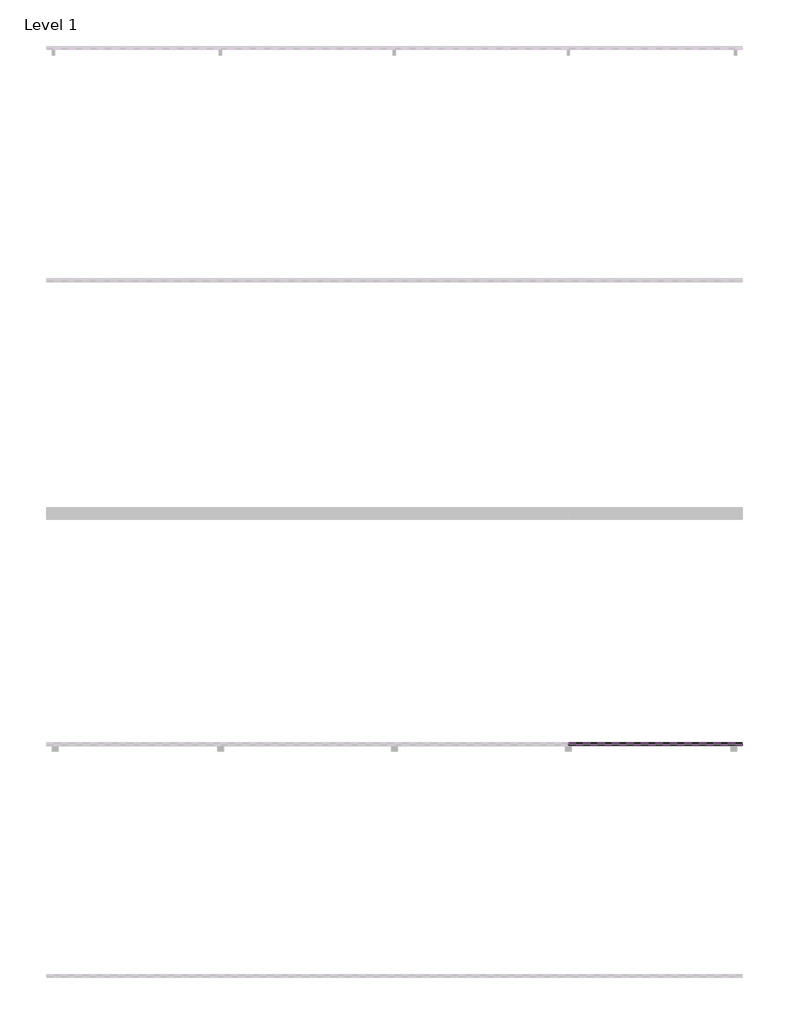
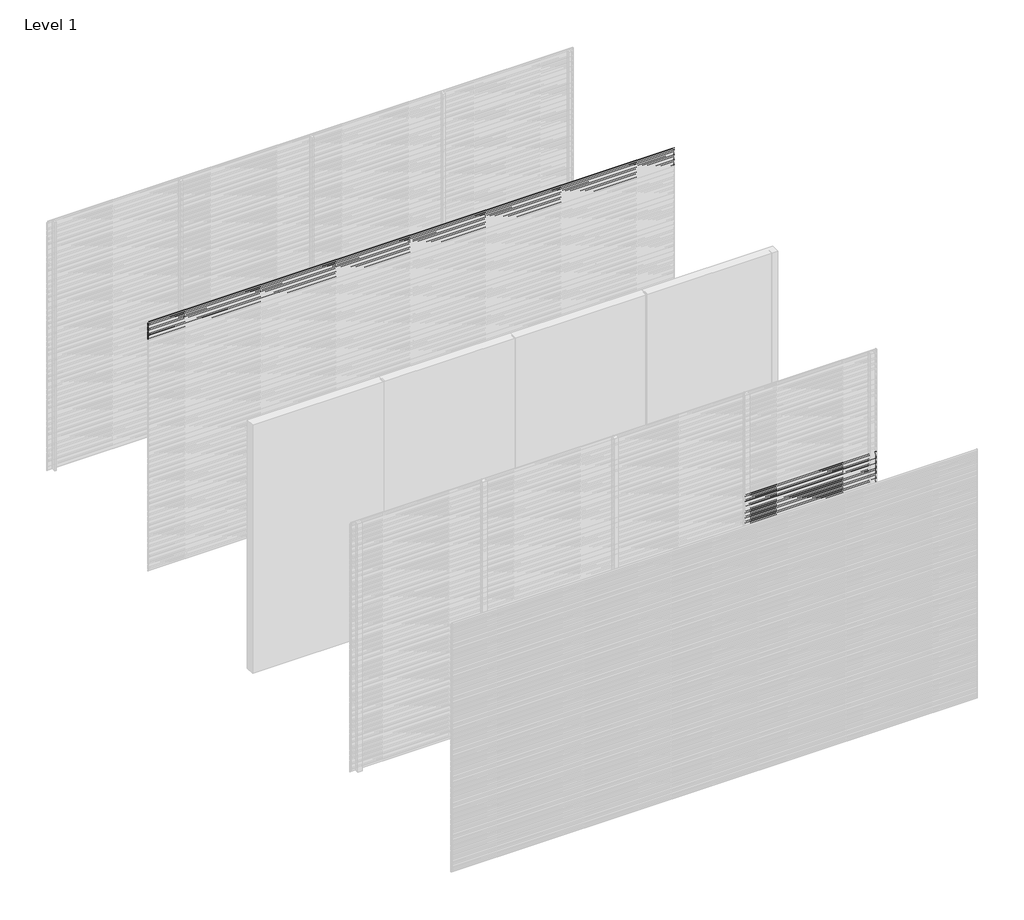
# One storey, part 16 of 31: 99 proxies.
"""IFC4 building model written with IfcOpenShell, lengths in millimetres."""

from ifc_helpers import new_model, si_unit, frame, origin, place, context, project, spatial, polyline, outline, extrude, element, save

model = new_model("IFC4")

# Units and contexts
model_context = context("Model", 3, world=origin())
ifc_project = project(units=[si_unit("LENGTHUNIT", "METRE", prefix="MILLI")], contexts=[model_context])

# Site, building, storey
site = spatial("IfcSite", under=ifc_project)
building = spatial("IfcBuilding", under=site)
storey = spatial("IfcBuildingStorey", under=building, Name="Level 1", Elevation=0.0)

# Proxies
placement = place(None, origin())
element("IfcBuildingElementProxy", 1, Name="Wall Sweeps", at=placement, inside=storey, context=model_context, shape_type="SweptSolid", body=[
    extrude(outline(polyline([(-7995.0, 3000.0), (-7995.0, 2988.942893), (-7976.0, 2973.0), (-7976.0, 2960.0), (-7997.0, 2977.6210923), (-7997.0, 3000.0), (-7995.0, 3000.0)])), frame((0.0, 0.0, 0.0), z_axis=(1.0, 0.0, 0.0), x_axis=(0.0, 1.0, 0.0)), (0.0, 0.0, 1.0), 6000.0),
])
element("IfcBuildingElementProxy", 2, Name="Wall Sweeps", at=placement, inside=storey, context=model_context, shape_type="SweptSolid", body=[
    extrude(outline(polyline([(-7995.0, 2980.0), (-7995.0, 2968.942893), (-7976.0, 2953.0), (-7976.0, 2940.0), (-7997.0, 2957.6210923), (-7997.0, 2980.0), (-7995.0, 2980.0)])), frame((0.0, 0.0, 0.0), z_axis=(1.0, 0.0, 0.0), x_axis=(0.0, 1.0, 0.0)), (0.0, 0.0, 1.0), 6000.0),
])
element("IfcBuildingElementProxy", 3, Name="Wall Sweeps", at=placement, inside=storey, context=model_context, shape_type="SweptSolid", body=[
    extrude(outline(polyline([(-7995.0, 2960.0), (-7995.0, 2948.942893), (-7976.0, 2933.0), (-7976.0, 2920.0), (-7997.0, 2937.6210923), (-7997.0, 2960.0), (-7995.0, 2960.0)])), frame((0.0, 0.0, 0.0), z_axis=(1.0, 0.0, 0.0), x_axis=(0.0, 1.0, 0.0)), (0.0, 0.0, 1.0), 6000.0),
])
element("IfcBuildingElementProxy", 4, Name="Wall Sweeps", at=placement, inside=storey, context=model_context, shape_type="SweptSolid", body=[
    extrude(outline(polyline([(-7995.0, 2940.0), (-7995.0, 2928.942893), (-7976.0, 2913.0), (-7976.0, 2900.0), (-7997.0, 2917.6210923), (-7997.0, 2940.0), (-7995.0, 2940.0)])), frame((0.0, 0.0, 0.0), z_axis=(1.0, 0.0, 0.0), x_axis=(0.0, 1.0, 0.0)), (0.0, 0.0, 1.0), 6000.0),
])
element("IfcBuildingElementProxy", 5, Name="Wall Sweeps", at=placement, inside=storey, context=model_context, shape_type="SweptSolid", body=[
    extrude(outline(polyline([(-7995.0, 2920.0), (-7995.0, 2908.942893), (-7976.0, 2893.0), (-7976.0, 2880.0), (-7997.0, 2897.6210923), (-7997.0, 2920.0), (-7995.0, 2920.0)])), frame((0.0, 0.0, 0.0), z_axis=(1.0, 0.0, 0.0), x_axis=(0.0, 1.0, 0.0)), (0.0, 0.0, 1.0), 6000.0),
])
element("IfcBuildingElementProxy", 6, Name="Wall Sweeps", at=placement, inside=storey, context=model_context, shape_type="SweptSolid", body=[
    extrude(outline(polyline([(-7995.0, 2900.0), (-7995.0, 2888.942893), (-7976.0, 2873.0), (-7976.0, 2860.0), (-7997.0, 2877.6210923), (-7997.0, 2900.0), (-7995.0, 2900.0)])), frame((0.0, 0.0, 0.0), z_axis=(1.0, 0.0, 0.0), x_axis=(0.0, 1.0, 0.0)), (0.0, 0.0, 1.0), 6000.0),
])
element("IfcBuildingElementProxy", 7, Name="Wall Sweeps", at=placement, inside=storey, context=model_context, shape_type="SweptSolid", body=[
    extrude(outline(polyline([(-7995.0, 2880.0), (-7995.0, 2868.942893), (-7976.0, 2853.0), (-7976.0, 2840.0), (-7997.0, 2857.6210923), (-7997.0, 2880.0), (-7995.0, 2880.0)])), frame((0.0, 0.0, 0.0), z_axis=(1.0, 0.0, 0.0), x_axis=(0.0, 1.0, 0.0)), (0.0, 0.0, 1.0), 6000.0),
])
element("IfcBuildingElementProxy", 8, Name="Wall Sweeps", at=placement, inside=storey, context=model_context, shape_type="SweptSolid", body=[
    extrude(outline(polyline([(-7995.0, 2860.0), (-7995.0, 2848.942893), (-7976.0, 2833.0), (-7976.0, 2820.0), (-7997.0, 2837.6210923), (-7997.0, 2860.0), (-7995.0, 2860.0)])), frame((0.0, 0.0, 0.0), z_axis=(1.0, 0.0, 0.0), x_axis=(0.0, 1.0, 0.0)), (0.0, 0.0, 1.0), 6000.0),
])
element("IfcBuildingElementProxy", 9, Name="Wall Sweeps", at=placement, inside=storey, context=model_context, shape_type="SweptSolid", body=[
    extrude(outline(polyline([(-7995.0, 2840.0), (-7995.0, 2828.942893), (-7976.0, 2813.0), (-7976.0, 2800.0), (-7997.0, 2817.6210923), (-7997.0, 2840.0), (-7995.0, 2840.0)])), frame((0.0, 0.0, 0.0), z_axis=(1.0, 0.0, 0.0), x_axis=(0.0, 1.0, 0.0)), (0.0, 0.0, 1.0), 6000.0),
])
element("IfcBuildingElementProxy", 10, Name="Wall Sweeps", at=placement, inside=storey, context=model_context, shape_type="SweptSolid", body=[
    extrude(outline(polyline([(-7995.0, 2820.0), (-7995.0, 2808.942893), (-7976.0, 2793.0), (-7976.0, 2780.0), (-7997.0, 2797.6210923), (-7997.0, 2820.0), (-7995.0, 2820.0)])), frame((0.0, 0.0, 0.0), z_axis=(1.0, 0.0, 0.0), x_axis=(0.0, 1.0, 0.0)), (0.0, 0.0, 1.0), 6000.0),
])
element("IfcBuildingElementProxy", 11, Name="Wall Sweeps", at=placement, inside=storey, context=model_context, shape_type="SweptSolid", body=[
    extrude(outline(polyline([(-11995.0, 1780.0), (-11995.0, 1768.942893), (-11976.0, 1753.0), (-11976.0, 1740.0), (-11997.0, 1757.6210923), (-11997.0, 1780.0), (-11995.0, 1780.0)])), frame((4500.0, 0.0, 0.0), z_axis=(1.0, 0.0, 0.0), x_axis=(0.0, 1.0, 0.0)), (0.0, 0.0, 1.0), 1500.0),
])
element("IfcBuildingElementProxy", 12, Name="Wall Sweeps", at=placement, inside=storey, context=model_context, shape_type="SweptSolid", body=[
    extrude(outline(polyline([(-11995.0, 1760.0), (-11995.0, 1748.942893), (-11976.0, 1733.0), (-11976.0, 1720.0), (-11997.0, 1737.6210923), (-11997.0, 1760.0), (-11995.0, 1760.0)])), frame((4500.0, 0.0, 0.0), z_axis=(1.0, 0.0, 0.0), x_axis=(0.0, 1.0, 0.0)), (0.0, 0.0, 1.0), 1500.0),
])
element("IfcBuildingElementProxy", 13, Name="Wall Sweeps", at=placement, inside=storey, context=model_context, shape_type="SweptSolid", body=[
    extrude(outline(polyline([(-11995.0, 1740.0), (-11995.0, 1728.942893), (-11976.0, 1713.0), (-11976.0, 1700.0), (-11997.0, 1717.6210923), (-11997.0, 1740.0), (-11995.0, 1740.0)])), frame((4500.0, 0.0, 0.0), z_axis=(1.0, 0.0, 0.0), x_axis=(0.0, 1.0, 0.0)), (0.0, 0.0, 1.0), 1500.0),
])
element("IfcBuildingElementProxy", 14, Name="Wall Sweeps", at=placement, inside=storey, context=model_context, shape_type="SweptSolid", body=[
    extrude(outline(polyline([(-11995.0, 1720.0), (-11995.0, 1708.942893), (-11976.0, 1693.0), (-11976.0, 1680.0), (-11997.0, 1697.6210923), (-11997.0, 1720.0), (-11995.0, 1720.0)])), frame((4500.0, 0.0, 0.0), z_axis=(1.0, 0.0, 0.0), x_axis=(0.0, 1.0, 0.0)), (0.0, 0.0, 1.0), 1500.0),
])
element("IfcBuildingElementProxy", 15, Name="Wall Sweeps", at=placement, inside=storey, context=model_context, shape_type="SweptSolid", body=[
    extrude(outline(polyline([(-11995.0, 1700.0), (-11995.0, 1688.942893), (-11976.0, 1673.0), (-11976.0, 1660.0), (-11997.0, 1677.6210923), (-11997.0, 1700.0), (-11995.0, 1700.0)])), frame((4500.0, 0.0, 0.0), z_axis=(1.0, 0.0, 0.0), x_axis=(0.0, 1.0, 0.0)), (0.0, 0.0, 1.0), 1500.0),
])
element("IfcBuildingElementProxy", 16, Name="Wall Sweeps", at=placement, inside=storey, context=model_context, shape_type="SweptSolid", body=[
    extrude(outline(polyline([(-11995.0, 1680.0), (-11995.0, 1668.942893), (-11976.0, 1653.0), (-11976.0, 1640.0), (-11997.0, 1657.6210923), (-11997.0, 1680.0), (-11995.0, 1680.0)])), frame((4500.0, 0.0, 0.0), z_axis=(1.0, 0.0, 0.0), x_axis=(0.0, 1.0, 0.0)), (0.0, 0.0, 1.0), 1500.0),
])
element("IfcBuildingElementProxy", 17, Name="Wall Sweeps", at=placement, inside=storey, context=model_context, shape_type="SweptSolid", body=[
    extrude(outline(polyline([(-11995.0, 1660.0), (-11995.0, 1648.942893), (-11976.0, 1633.0), (-11976.0, 1620.0), (-11997.0, 1637.6210923), (-11997.0, 1660.0), (-11995.0, 1660.0)])), frame((4500.0, 0.0, 0.0), z_axis=(1.0, 0.0, 0.0), x_axis=(0.0, 1.0, 0.0)), (0.0, 0.0, 1.0), 1500.0),
])
element("IfcBuildingElementProxy", 18, Name="Wall Sweeps", at=placement, inside=storey, context=model_context, shape_type="SweptSolid", body=[
    extrude(outline(polyline([(-11995.0, 1640.0), (-11995.0, 1628.942893), (-11976.0, 1613.0), (-11976.0, 1600.0), (-11997.0, 1617.6210923), (-11997.0, 1640.0), (-11995.0, 1640.0)])), frame((4500.0, 0.0, 0.0), z_axis=(1.0, 0.0, 0.0), x_axis=(0.0, 1.0, 0.0)), (0.0, 0.0, 1.0), 1500.0),
])
element("IfcBuildingElementProxy", 19, Name="Wall Sweeps", at=placement, inside=storey, context=model_context, shape_type="SweptSolid", body=[
    extrude(outline(polyline([(-11995.0, 1620.0), (-11995.0, 1608.942893), (-11976.0, 1593.0), (-11976.0, 1580.0), (-11997.0, 1597.6210923), (-11997.0, 1620.0), (-11995.0, 1620.0)])), frame((4500.0, 0.0, 0.0), z_axis=(1.0, 0.0, 0.0), x_axis=(0.0, 1.0, 0.0)), (0.0, 0.0, 1.0), 1500.0),
])
element("IfcBuildingElementProxy", 20, Name="Wall Sweeps", at=placement, inside=storey, context=model_context, shape_type="SweptSolid", body=[
    extrude(outline(polyline([(-11995.0, 1600.0), (-11995.0, 1588.942893), (-11976.0, 1573.0), (-11976.0, 1560.0), (-11997.0, 1577.6210923), (-11997.0, 1600.0), (-11995.0, 1600.0)])), frame((4500.0, 0.0, 0.0), z_axis=(1.0, 0.0, 0.0), x_axis=(0.0, 1.0, 0.0)), (0.0, 0.0, 1.0), 1500.0),
])
element("IfcBuildingElementProxy", 21, Name="Wall Sweeps", at=placement, inside=storey, context=model_context, shape_type="SweptSolid", body=[
    extrude(outline(polyline([(-11995.0, 1580.0), (-11995.0, 1568.942893), (-11976.0, 1553.0), (-11976.0, 1540.0), (-11997.0, 1557.6210923), (-11997.0, 1580.0), (-11995.0, 1580.0)])), frame((4500.0, 0.0, 0.0), z_axis=(1.0, 0.0, 0.0), x_axis=(0.0, 1.0, 0.0)), (0.0, 0.0, 1.0), 1500.0),
])
element("IfcBuildingElementProxy", 22, Name="Wall Sweeps", at=placement, inside=storey, context=model_context, shape_type="SweptSolid", body=[
    extrude(outline(polyline([(-11995.0, 1560.0), (-11995.0, 1548.942893), (-11976.0, 1533.0), (-11976.0, 1520.0), (-11997.0, 1537.6210923), (-11997.0, 1560.0), (-11995.0, 1560.0)])), frame((4500.0, 0.0, 0.0), z_axis=(1.0, 0.0, 0.0), x_axis=(0.0, 1.0, 0.0)), (0.0, 0.0, 1.0), 1500.0),
])
element("IfcBuildingElementProxy", 23, Name="Wall Sweeps", at=placement, inside=storey, context=model_context, shape_type="SweptSolid", body=[
    extrude(outline(polyline([(-11995.0, 1540.0), (-11995.0, 1528.942893), (-11976.0, 1513.0), (-11976.0, 1500.0), (-11997.0, 1517.6210923), (-11997.0, 1540.0), (-11995.0, 1540.0)])), frame((4500.0, 0.0, 0.0), z_axis=(1.0, 0.0, 0.0), x_axis=(0.0, 1.0, 0.0)), (0.0, 0.0, 1.0), 1500.0),
])
element("IfcBuildingElementProxy", 24, Name="Wall Sweeps", at=placement, inside=storey, context=model_context, shape_type="SweptSolid", body=[
    extrude(outline(polyline([(-11995.0, 1520.0), (-11995.0, 1508.942893), (-11976.0, 1493.0), (-11976.0, 1480.0), (-11997.0, 1497.6210923), (-11997.0, 1520.0), (-11995.0, 1520.0)])), frame((4500.0, 0.0, 0.0), z_axis=(1.0, 0.0, 0.0), x_axis=(0.0, 1.0, 0.0)), (0.0, 0.0, 1.0), 1500.0),
])
element("IfcBuildingElementProxy", 25, Name="Wall Sweeps", at=placement, inside=storey, context=model_context, shape_type="SweptSolid", body=[
    extrude(outline(polyline([(-11995.0, 1500.0), (-11995.0, 1488.942893), (-11976.0, 1473.0), (-11976.0, 1460.0), (-11997.0, 1477.6210923), (-11997.0, 1500.0), (-11995.0, 1500.0)])), frame((4500.0, 0.0, 0.0), z_axis=(1.0, 0.0, 0.0), x_axis=(0.0, 1.0, 0.0)), (0.0, 0.0, 1.0), 1500.0),
])
element("IfcBuildingElementProxy", 26, Name="Wall Sweeps", at=placement, inside=storey, context=model_context, shape_type="SweptSolid", body=[
    extrude(outline(polyline([(-11995.0, 1480.0), (-11995.0, 1468.942893), (-11976.0, 1453.0), (-11976.0, 1440.0), (-11997.0, 1457.6210923), (-11997.0, 1480.0), (-11995.0, 1480.0)])), frame((4500.0, 0.0, 0.0), z_axis=(1.0, 0.0, 0.0), x_axis=(0.0, 1.0, 0.0)), (0.0, 0.0, 1.0), 1500.0),
])
element("IfcBuildingElementProxy", 27, Name="Wall Sweeps", at=placement, inside=storey, context=model_context, shape_type="SweptSolid", body=[
    extrude(outline(polyline([(-11995.0, 1460.0), (-11995.0, 1448.942893), (-11976.0, 1433.0), (-11976.0, 1420.0), (-11997.0, 1437.6210923), (-11997.0, 1460.0), (-11995.0, 1460.0)])), frame((4500.0, 0.0, 0.0), z_axis=(1.0, 0.0, 0.0), x_axis=(0.0, 1.0, 0.0)), (0.0, 0.0, 1.0), 1500.0),
])
element("IfcBuildingElementProxy", 28, Name="Wall Sweeps", at=placement, inside=storey, context=model_context, shape_type="SweptSolid", body=[
    extrude(outline(polyline([(-11995.0, 1440.0), (-11995.0, 1428.942893), (-11976.0, 1413.0), (-11976.0, 1400.0), (-11997.0, 1417.6210923), (-11997.0, 1440.0), (-11995.0, 1440.0)])), frame((4500.0, 0.0, 0.0), z_axis=(1.0, 0.0, 0.0), x_axis=(0.0, 1.0, 0.0)), (0.0, 0.0, 1.0), 1500.0),
])
element("IfcBuildingElementProxy", 29, Name="Wall Sweeps", at=placement, inside=storey, context=model_context, shape_type="SweptSolid", body=[
    extrude(outline(polyline([(-11995.0, 1420.0), (-11995.0, 1408.942893), (-11976.0, 1393.0), (-11976.0, 1380.0), (-11997.0, 1397.6210923), (-11997.0, 1420.0), (-11995.0, 1420.0)])), frame((4500.0, 0.0, 0.0), z_axis=(1.0, 0.0, 0.0), x_axis=(0.0, 1.0, 0.0)), (0.0, 0.0, 1.0), 1500.0),
])
element("IfcBuildingElementProxy", 30, Name="Wall Sweeps", at=placement, inside=storey, context=model_context, shape_type="SweptSolid", body=[
    extrude(outline(polyline([(-11995.0, 1400.0), (-11995.0, 1388.942893), (-11976.0, 1373.0), (-11976.0, 1360.0), (-11997.0, 1377.6210923), (-11997.0, 1400.0), (-11995.0, 1400.0)])), frame((4500.0, 0.0, 0.0), z_axis=(1.0, 0.0, 0.0), x_axis=(0.0, 1.0, 0.0)), (0.0, 0.0, 1.0), 1500.0),
])
element("IfcBuildingElementProxy", 31, Name="Wall Sweeps", at=placement, inside=storey, context=model_context, shape_type="SweptSolid", body=[
    extrude(outline(polyline([(-11995.0, 1380.0), (-11995.0, 1368.942893), (-11976.0, 1353.0), (-11976.0, 1340.0), (-11997.0, 1357.6210923), (-11997.0, 1380.0), (-11995.0, 1380.0)])), frame((4500.0, 0.0, 0.0), z_axis=(1.0, 0.0, 0.0), x_axis=(0.0, 1.0, 0.0)), (0.0, 0.0, 1.0), 1500.0),
])
element("IfcBuildingElementProxy", 32, Name="Wall Sweeps", at=placement, inside=storey, context=model_context, shape_type="SweptSolid", body=[
    extrude(outline(polyline([(-11995.0, 1360.0), (-11995.0, 1348.942893), (-11976.0, 1333.0), (-11976.0, 1320.0), (-11997.0, 1337.6210923), (-11997.0, 1360.0), (-11995.0, 1360.0)])), frame((4500.0, 0.0, 0.0), z_axis=(1.0, 0.0, 0.0), x_axis=(0.0, 1.0, 0.0)), (0.0, 0.0, 1.0), 1500.0),
])
element("IfcBuildingElementProxy", 33, Name="Wall Sweeps", at=placement, inside=storey, context=model_context, shape_type="SweptSolid", body=[
    extrude(outline(polyline([(-11995.0, 1340.0), (-11995.0, 1328.942893), (-11976.0, 1313.0), (-11976.0, 1300.0), (-11997.0, 1317.6210923), (-11997.0, 1340.0), (-11995.0, 1340.0)])), frame((4500.0, 0.0, 0.0), z_axis=(1.0, 0.0, 0.0), x_axis=(0.0, 1.0, 0.0)), (0.0, 0.0, 1.0), 1500.0),
])
element("IfcBuildingElementProxy", 34, Name="Wall Sweeps", at=placement, inside=storey, context=model_context, shape_type="SweptSolid", body=[
    extrude(outline(polyline([(-11995.0, 1320.0), (-11995.0, 1308.942893), (-11976.0, 1293.0), (-11976.0, 1280.0), (-11997.0, 1297.6210923), (-11997.0, 1320.0), (-11995.0, 1320.0)])), frame((4500.0, 0.0, 0.0), z_axis=(1.0, 0.0, 0.0), x_axis=(0.0, 1.0, 0.0)), (0.0, 0.0, 1.0), 1500.0),
])
element("IfcBuildingElementProxy", 35, Name="Wall Sweeps", at=placement, inside=storey, context=model_context, shape_type="SweptSolid", body=[
    extrude(outline(polyline([(-11995.0, 1300.0), (-11995.0, 1288.942893), (-11976.0, 1273.0), (-11976.0, 1260.0), (-11997.0, 1277.6210923), (-11997.0, 1300.0), (-11995.0, 1300.0)])), frame((4500.0, 0.0, 0.0), z_axis=(1.0, 0.0, 0.0), x_axis=(0.0, 1.0, 0.0)), (0.0, 0.0, 1.0), 1500.0),
])
element("IfcBuildingElementProxy", 36, Name="Wall Sweeps", at=placement, inside=storey, context=model_context, shape_type="SweptSolid", body=[
    extrude(outline(polyline([(-11995.0, 1280.0), (-11995.0, 1268.942893), (-11976.0, 1253.0), (-11976.0, 1240.0), (-11997.0, 1257.6210923), (-11997.0, 1280.0), (-11995.0, 1280.0)])), frame((4500.0, 0.0, 0.0), z_axis=(1.0, 0.0, 0.0), x_axis=(0.0, 1.0, 0.0)), (0.0, 0.0, 1.0), 1500.0),
])
element("IfcBuildingElementProxy", 37, Name="Wall Sweeps", at=placement, inside=storey, context=model_context, shape_type="SweptSolid", body=[
    extrude(outline(polyline([(-11995.0, 1260.0), (-11995.0, 1248.942893), (-11976.0, 1233.0), (-11976.0, 1220.0), (-11997.0, 1237.6210923), (-11997.0, 1260.0), (-11995.0, 1260.0)])), frame((4500.0, 0.0, 0.0), z_axis=(1.0, 0.0, 0.0), x_axis=(0.0, 1.0, 0.0)), (0.0, 0.0, 1.0), 1500.0),
])
element("IfcBuildingElementProxy", 38, Name="Wall Sweeps", at=placement, inside=storey, context=model_context, shape_type="SweptSolid", body=[
    extrude(outline(polyline([(-11995.0, 1240.0), (-11995.0, 1228.942893), (-11976.0, 1213.0), (-11976.0, 1200.0), (-11997.0, 1217.6210923), (-11997.0, 1240.0), (-11995.0, 1240.0)])), frame((4500.0, 0.0, 0.0), z_axis=(1.0, 0.0, 0.0), x_axis=(0.0, 1.0, 0.0)), (0.0, 0.0, 1.0), 1500.0),
])
element("IfcBuildingElementProxy", 39, Name="Wall Sweeps", at=placement, inside=storey, context=model_context, shape_type="SweptSolid", body=[
    extrude(outline(polyline([(-11995.0, 1220.0), (-11995.0, 1208.942893), (-11976.0, 1193.0), (-11976.0, 1180.0), (-11997.0, 1197.6210923), (-11997.0, 1220.0), (-11995.0, 1220.0)])), frame((4500.0, 0.0, 0.0), z_axis=(1.0, 0.0, 0.0), x_axis=(0.0, 1.0, 0.0)), (0.0, 0.0, 1.0), 1500.0),
])
element("IfcBuildingElementProxy", 40, Name="Wall Sweeps", at=placement, inside=storey, context=model_context, shape_type="SweptSolid", body=[
    extrude(outline(polyline([(-11995.0, 1200.0), (-11995.0, 1188.942893), (-11976.0, 1173.0), (-11976.0, 1160.0), (-11997.0, 1177.6210923), (-11997.0, 1200.0), (-11995.0, 1200.0)])), frame((4500.0, 0.0, 0.0), z_axis=(1.0, 0.0, 0.0), x_axis=(0.0, 1.0, 0.0)), (0.0, 0.0, 1.0), 1500.0),
])
element("IfcBuildingElementProxy", 41, Name="Wall Sweeps", at=placement, inside=storey, context=model_context, shape_type="SweptSolid", body=[
    extrude(outline(polyline([(-11995.0, 1180.0), (-11995.0, 1168.942893), (-11976.0, 1153.0), (-11976.0, 1140.0), (-11997.0, 1157.6210923), (-11997.0, 1180.0), (-11995.0, 1180.0)])), frame((4500.0, 0.0, 0.0), z_axis=(1.0, 0.0, 0.0), x_axis=(0.0, 1.0, 0.0)), (0.0, 0.0, 1.0), 1500.0),
])
element("IfcBuildingElementProxy", 42, Name="Wall Sweeps", at=placement, inside=storey, context=model_context, shape_type="SweptSolid", body=[
    extrude(outline(polyline([(-11995.0, 1160.0), (-11995.0, 1148.942893), (-11976.0, 1133.0), (-11976.0, 1120.0), (-11997.0, 1137.6210923), (-11997.0, 1160.0), (-11995.0, 1160.0)])), frame((4500.0, 0.0, 0.0), z_axis=(1.0, 0.0, 0.0), x_axis=(0.0, 1.0, 0.0)), (0.0, 0.0, 1.0), 1500.0),
])
element("IfcBuildingElementProxy", 43, Name="Wall Sweeps", at=placement, inside=storey, context=model_context, shape_type="SweptSolid", body=[
    extrude(outline(polyline([(-11995.0, 1140.0), (-11995.0, 1128.942893), (-11976.0, 1113.0), (-11976.0, 1100.0), (-11997.0, 1117.6210923), (-11997.0, 1140.0), (-11995.0, 1140.0)])), frame((4500.0, 0.0, 0.0), z_axis=(1.0, 0.0, 0.0), x_axis=(0.0, 1.0, 0.0)), (0.0, 0.0, 1.0), 1500.0),
])
element("IfcBuildingElementProxy", 44, Name="Wall Sweeps", at=placement, inside=storey, context=model_context, shape_type="SweptSolid", body=[
    extrude(outline(polyline([(-11995.0, 1120.0), (-11995.0, 1108.942893), (-11976.0, 1093.0), (-11976.0, 1080.0), (-11997.0, 1097.6210923), (-11997.0, 1120.0), (-11995.0, 1120.0)])), frame((4500.0, 0.0, 0.0), z_axis=(1.0, 0.0, 0.0), x_axis=(0.0, 1.0, 0.0)), (0.0, 0.0, 1.0), 1500.0),
])
element("IfcBuildingElementProxy", 45, Name="Wall Sweeps", at=placement, inside=storey, context=model_context, shape_type="SweptSolid", body=[
    extrude(outline(polyline([(-11995.0, 1100.0), (-11995.0, 1088.942893), (-11976.0, 1073.0), (-11976.0, 1060.0), (-11997.0, 1077.6210923), (-11997.0, 1100.0), (-11995.0, 1100.0)])), frame((4500.0, 0.0, 0.0), z_axis=(1.0, 0.0, 0.0), x_axis=(0.0, 1.0, 0.0)), (0.0, 0.0, 1.0), 1500.0),
])
element("IfcBuildingElementProxy", 46, Name="Wall Sweeps", at=placement, inside=storey, context=model_context, shape_type="SweptSolid", body=[
    extrude(outline(polyline([(-11995.0, 1080.0), (-11995.0, 1068.942893), (-11976.0, 1053.0), (-11976.0, 1040.0), (-11997.0, 1057.6210923), (-11997.0, 1080.0), (-11995.0, 1080.0)])), frame((4500.0, 0.0, 0.0), z_axis=(1.0, 0.0, 0.0), x_axis=(0.0, 1.0, 0.0)), (0.0, 0.0, 1.0), 1500.0),
])
element("IfcBuildingElementProxy", 47, Name="Wall Sweeps", at=placement, inside=storey, context=model_context, shape_type="SweptSolid", body=[
    extrude(outline(polyline([(-11995.0, 1060.0), (-11995.0, 1048.942893), (-11976.0, 1033.0), (-11976.0, 1020.0), (-11997.0, 1037.6210923), (-11997.0, 1060.0), (-11995.0, 1060.0)])), frame((4500.0, 0.0, 0.0), z_axis=(1.0, 0.0, 0.0), x_axis=(0.0, 1.0, 0.0)), (0.0, 0.0, 1.0), 1500.0),
])
element("IfcBuildingElementProxy", 48, Name="Wall Sweeps", at=placement, inside=storey, context=model_context, shape_type="SweptSolid", body=[
    extrude(outline(polyline([(-11995.0, 1040.0), (-11995.0, 1028.942893), (-11976.0, 1013.0), (-11976.0, 1000.0), (-11997.0, 1017.6210923), (-11997.0, 1040.0), (-11995.0, 1040.0)])), frame((4500.0, 0.0, 0.0), z_axis=(1.0, 0.0, 0.0), x_axis=(0.0, 1.0, 0.0)), (0.0, 0.0, 1.0), 1500.0),
])
element("IfcBuildingElementProxy", 49, Name="Wall Sweeps", at=placement, inside=storey, context=model_context, shape_type="SweptSolid", body=[
    extrude(outline(polyline([(-11995.0, 1020.0), (-11995.0, 1008.942893), (-11976.0, 993.0), (-11976.0, 980.0), (-11997.0, 997.6210923), (-11997.0, 1020.0), (-11995.0, 1020.0)])), frame((4500.0, 0.0, 0.0), z_axis=(1.0, 0.0, 0.0), x_axis=(0.0, 1.0, 0.0)), (0.0, 0.0, 1.0), 1500.0),
])
element("IfcBuildingElementProxy", 50, Name="Wall Sweeps", at=placement, inside=storey, context=model_context, shape_type="SweptSolid", body=[
    extrude(outline(polyline([(-11995.0, 1000.0), (-11995.0, 988.942893), (-11976.0, 973.0), (-11976.0, 960.0), (-11997.0, 977.6210923), (-11997.0, 1000.0), (-11995.0, 1000.0)])), frame((4500.0, 0.0, 0.0), z_axis=(1.0, 0.0, 0.0), x_axis=(0.0, 1.0, 0.0)), (0.0, 0.0, 1.0), 1500.0),
])
element("IfcBuildingElementProxy", 51, Name="Wall Sweeps", at=placement, inside=storey, context=model_context, shape_type="SweptSolid", body=[
    extrude(outline(polyline([(-11995.0, 980.0), (-11995.0, 968.942893), (-11976.0, 953.0), (-11976.0, 940.0), (-11997.0, 957.6210923), (-11997.0, 980.0), (-11995.0, 980.0)])), frame((4500.0, 0.0, 0.0), z_axis=(1.0, 0.0, 0.0), x_axis=(0.0, 1.0, 0.0)), (0.0, 0.0, 1.0), 1500.0),
])
element("IfcBuildingElementProxy", 52, Name="Wall Sweeps", at=placement, inside=storey, context=model_context, shape_type="SweptSolid", body=[
    extrude(outline(polyline([(-11995.0, 960.0), (-11995.0, 948.942893), (-11976.0, 933.0), (-11976.0, 920.0), (-11997.0, 937.6210923), (-11997.0, 960.0), (-11995.0, 960.0)])), frame((4500.0, 0.0, 0.0), z_axis=(1.0, 0.0, 0.0), x_axis=(0.0, 1.0, 0.0)), (0.0, 0.0, 1.0), 1500.0),
])
element("IfcBuildingElementProxy", 53, Name="Wall Sweeps", at=placement, inside=storey, context=model_context, shape_type="SweptSolid", body=[
    extrude(outline(polyline([(-11995.0, 940.0), (-11995.0, 928.942893), (-11976.0, 913.0), (-11976.0, 900.0), (-11997.0, 917.6210923), (-11997.0, 940.0), (-11995.0, 940.0)])), frame((4500.0, 0.0, 0.0), z_axis=(1.0, 0.0, 0.0), x_axis=(0.0, 1.0, 0.0)), (0.0, 0.0, 1.0), 1500.0),
])
element("IfcBuildingElementProxy", 54, Name="Wall Sweeps", at=placement, inside=storey, context=model_context, shape_type="SweptSolid", body=[
    extrude(outline(polyline([(-11995.0, 920.0), (-11995.0, 908.942893), (-11976.0, 893.0), (-11976.0, 880.0), (-11997.0, 897.6210923), (-11997.0, 920.0), (-11995.0, 920.0)])), frame((4500.0, 0.0, 0.0), z_axis=(1.0, 0.0, 0.0), x_axis=(0.0, 1.0, 0.0)), (0.0, 0.0, 1.0), 1500.0),
])
element("IfcBuildingElementProxy", 55, Name="Wall Sweeps", at=placement, inside=storey, context=model_context, shape_type="SweptSolid", body=[
    extrude(outline(polyline([(-11995.0, 900.0), (-11995.0, 888.942893), (-11976.0, 873.0), (-11976.0, 860.0), (-11997.0, 877.6210923), (-11997.0, 900.0), (-11995.0, 900.0)])), frame((4500.0, 0.0, 0.0), z_axis=(1.0, 0.0, 0.0), x_axis=(0.0, 1.0, 0.0)), (0.0, 0.0, 1.0), 1500.0),
])
element("IfcBuildingElementProxy", 56, Name="Wall Sweeps", at=placement, inside=storey, context=model_context, shape_type="SweptSolid", body=[
    extrude(outline(polyline([(-11995.0, 880.0), (-11995.0, 868.942893), (-11976.0, 853.0), (-11976.0, 840.0), (-11997.0, 857.6210923), (-11997.0, 880.0), (-11995.0, 880.0)])), frame((4500.0, 0.0, 0.0), z_axis=(1.0, 0.0, 0.0), x_axis=(0.0, 1.0, 0.0)), (0.0, 0.0, 1.0), 1500.0),
])
element("IfcBuildingElementProxy", 57, Name="Wall Sweeps", at=placement, inside=storey, context=model_context, shape_type="SweptSolid", body=[
    extrude(outline(polyline([(-11995.0, 860.0), (-11995.0, 848.942893), (-11976.0, 833.0), (-11976.0, 820.0), (-11997.0, 837.6210923), (-11997.0, 860.0), (-11995.0, 860.0)])), frame((4500.0, 0.0, 0.0), z_axis=(1.0, 0.0, 0.0), x_axis=(0.0, 1.0, 0.0)), (0.0, 0.0, 1.0), 1500.0),
])
element("IfcBuildingElementProxy", 58, Name="Wall Sweeps", at=placement, inside=storey, context=model_context, shape_type="SweptSolid", body=[
    extrude(outline(polyline([(-11995.0, 840.0), (-11995.0, 828.942893), (-11976.0, 813.0), (-11976.0, 800.0), (-11997.0, 817.6210923), (-11997.0, 840.0), (-11995.0, 840.0)])), frame((4500.0, 0.0, 0.0), z_axis=(1.0, 0.0, 0.0), x_axis=(0.0, 1.0, 0.0)), (0.0, 0.0, 1.0), 1500.0),
])
element("IfcBuildingElementProxy", 59, Name="Wall Sweeps", at=placement, inside=storey, context=model_context, shape_type="SweptSolid", body=[
    extrude(outline(polyline([(-11995.0, 820.0), (-11995.0, 808.942893), (-11976.0, 793.0), (-11976.0, 780.0), (-11997.0, 797.6210923), (-11997.0, 820.0), (-11995.0, 820.0)])), frame((4500.0, 0.0, 0.0), z_axis=(1.0, 0.0, 0.0), x_axis=(0.0, 1.0, 0.0)), (0.0, 0.0, 1.0), 1500.0),
])
element("IfcBuildingElementProxy", 60, Name="Wall Sweeps", at=placement, inside=storey, context=model_context, shape_type="SweptSolid", body=[
    extrude(outline(polyline([(-11995.0, 800.0), (-11995.0, 788.942893), (-11976.0, 773.0), (-11976.0, 760.0), (-11997.0, 777.6210923), (-11997.0, 800.0), (-11995.0, 800.0)])), frame((4500.0, 0.0, 0.0), z_axis=(1.0, 0.0, 0.0), x_axis=(0.0, 1.0, 0.0)), (0.0, 0.0, 1.0), 1500.0),
])
element("IfcBuildingElementProxy", 61, Name="Wall Sweeps", at=placement, inside=storey, context=model_context, shape_type="SweptSolid", body=[
    extrude(outline(polyline([(-11995.0, 780.0), (-11995.0, 768.942893), (-11976.0, 753.0), (-11976.0, 740.0), (-11997.0, 757.6210923), (-11997.0, 780.0), (-11995.0, 780.0)])), frame((4500.0, 0.0, 0.0), z_axis=(1.0, 0.0, 0.0), x_axis=(0.0, 1.0, 0.0)), (0.0, 0.0, 1.0), 1500.0),
])
element("IfcBuildingElementProxy", 62, Name="Wall Sweeps", at=placement, inside=storey, context=model_context, shape_type="SweptSolid", body=[
    extrude(outline(polyline([(-11995.0, 760.0), (-11995.0, 748.942893), (-11976.0, 733.0), (-11976.0, 720.0), (-11997.0, 737.6210923), (-11997.0, 760.0), (-11995.0, 760.0)])), frame((4500.0, 0.0, 0.0), z_axis=(1.0, 0.0, 0.0), x_axis=(0.0, 1.0, 0.0)), (0.0, 0.0, 1.0), 1500.0),
])
element("IfcBuildingElementProxy", 63, Name="Wall Sweeps", at=placement, inside=storey, context=model_context, shape_type="SweptSolid", body=[
    extrude(outline(polyline([(-11995.0, 740.0), (-11995.0, 728.942893), (-11976.0, 713.0), (-11976.0, 700.0), (-11997.0, 717.6210923), (-11997.0, 740.0), (-11995.0, 740.0)])), frame((4500.0, 0.0, 0.0), z_axis=(1.0, 0.0, 0.0), x_axis=(0.0, 1.0, 0.0)), (0.0, 0.0, 1.0), 1500.0),
])
element("IfcBuildingElementProxy", 64, Name="Wall Sweeps", at=placement, inside=storey, context=model_context, shape_type="SweptSolid", body=[
    extrude(outline(polyline([(-11995.0, 720.0), (-11995.0, 708.942893), (-11976.0, 693.0), (-11976.0, 680.0), (-11997.0, 697.6210923), (-11997.0, 720.0), (-11995.0, 720.0)])), frame((4500.0, 0.0, 0.0), z_axis=(1.0, 0.0, 0.0), x_axis=(0.0, 1.0, 0.0)), (0.0, 0.0, 1.0), 1500.0),
])
element("IfcBuildingElementProxy", 65, Name="Wall Sweeps", at=placement, inside=storey, context=model_context, shape_type="SweptSolid", body=[
    extrude(outline(polyline([(-11995.0, 700.0), (-11995.0, 688.942893), (-11976.0, 673.0), (-11976.0, 660.0), (-11997.0, 677.6210923), (-11997.0, 700.0), (-11995.0, 700.0)])), frame((4500.0, 0.0, 0.0), z_axis=(1.0, 0.0, 0.0), x_axis=(0.0, 1.0, 0.0)), (0.0, 0.0, 1.0), 1500.0),
])
element("IfcBuildingElementProxy", 66, Name="Wall Sweeps", at=placement, inside=storey, context=model_context, shape_type="SweptSolid", body=[
    extrude(outline(polyline([(-11995.0, 680.0), (-11995.0, 668.942893), (-11976.0, 653.0), (-11976.0, 640.0), (-11997.0, 657.6210923), (-11997.0, 680.0), (-11995.0, 680.0)])), frame((4500.0, 0.0, 0.0), z_axis=(1.0, 0.0, 0.0), x_axis=(0.0, 1.0, 0.0)), (0.0, 0.0, 1.0), 1500.0),
])
element("IfcBuildingElementProxy", 67, Name="Wall Sweeps", at=placement, inside=storey, context=model_context, shape_type="SweptSolid", body=[
    extrude(outline(polyline([(-11995.0, 660.0), (-11995.0, 648.942893), (-11976.0, 633.0), (-11976.0, 620.0), (-11997.0, 637.6210923), (-11997.0, 660.0), (-11995.0, 660.0)])), frame((4500.0, 0.0, 0.0), z_axis=(1.0, 0.0, 0.0), x_axis=(0.0, 1.0, 0.0)), (0.0, 0.0, 1.0), 1500.0),
])
element("IfcBuildingElementProxy", 68, Name="Wall Sweeps", at=placement, inside=storey, context=model_context, shape_type="SweptSolid", body=[
    extrude(outline(polyline([(-11995.0, 640.0), (-11995.0, 628.942893), (-11976.0, 613.0), (-11976.0, 600.0), (-11997.0, 617.6210923), (-11997.0, 640.0), (-11995.0, 640.0)])), frame((4500.0, 0.0, 0.0), z_axis=(1.0, 0.0, 0.0), x_axis=(0.0, 1.0, 0.0)), (0.0, 0.0, 1.0), 1500.0),
])
element("IfcBuildingElementProxy", 69, Name="Wall Sweeps", at=placement, inside=storey, context=model_context, shape_type="SweptSolid", body=[
    extrude(outline(polyline([(-11995.0, 620.0), (-11995.0, 608.942893), (-11976.0, 593.0), (-11976.0, 580.0), (-11997.0, 597.6210923), (-11997.0, 620.0), (-11995.0, 620.0)])), frame((4500.0, 0.0, 0.0), z_axis=(1.0, 0.0, 0.0), x_axis=(0.0, 1.0, 0.0)), (0.0, 0.0, 1.0), 1500.0),
])
element("IfcBuildingElementProxy", 70, Name="Wall Sweeps", at=placement, inside=storey, context=model_context, shape_type="SweptSolid", body=[
    extrude(outline(polyline([(-11995.0, 600.0), (-11995.0, 588.942893), (-11976.0, 573.0), (-11976.0, 560.0), (-11997.0, 577.6210923), (-11997.0, 600.0), (-11995.0, 600.0)])), frame((4500.0, 0.0, 0.0), z_axis=(1.0, 0.0, 0.0), x_axis=(0.0, 1.0, 0.0)), (0.0, 0.0, 1.0), 1500.0),
])
element("IfcBuildingElementProxy", 71, Name="Wall Sweeps", at=placement, inside=storey, context=model_context, shape_type="SweptSolid", body=[
    extrude(outline(polyline([(-11995.0, 580.0), (-11995.0, 568.942893), (-11976.0, 553.0), (-11976.0, 540.0), (-11997.0, 557.6210923), (-11997.0, 580.0), (-11995.0, 580.0)])), frame((4500.0, 0.0, 0.0), z_axis=(1.0, 0.0, 0.0), x_axis=(0.0, 1.0, 0.0)), (0.0, 0.0, 1.0), 1500.0),
])
element("IfcBuildingElementProxy", 72, Name="Wall Sweeps", at=placement, inside=storey, context=model_context, shape_type="SweptSolid", body=[
    extrude(outline(polyline([(-11995.0, 560.0), (-11995.0, 548.942893), (-11976.0, 533.0), (-11976.0, 520.0), (-11997.0, 537.6210923), (-11997.0, 560.0), (-11995.0, 560.0)])), frame((4500.0, 0.0, 0.0), z_axis=(1.0, 0.0, 0.0), x_axis=(0.0, 1.0, 0.0)), (0.0, 0.0, 1.0), 1500.0),
])
element("IfcBuildingElementProxy", 73, Name="Wall Sweeps", at=placement, inside=storey, context=model_context, shape_type="SweptSolid", body=[
    extrude(outline(polyline([(-11995.0, 540.0), (-11995.0, 528.942893), (-11976.0, 513.0), (-11976.0, 500.0), (-11997.0, 517.6210923), (-11997.0, 540.0), (-11995.0, 540.0)])), frame((4500.0, 0.0, 0.0), z_axis=(1.0, 0.0, 0.0), x_axis=(0.0, 1.0, 0.0)), (0.0, 0.0, 1.0), 1500.0),
])
element("IfcBuildingElementProxy", 74, Name="Wall Sweeps", at=placement, inside=storey, context=model_context, shape_type="SweptSolid", body=[
    extrude(outline(polyline([(-11995.0, 520.0), (-11995.0, 508.942893), (-11976.0, 493.0), (-11976.0, 480.0), (-11997.0, 497.6210923), (-11997.0, 520.0), (-11995.0, 520.0)])), frame((4500.0, 0.0, 0.0), z_axis=(1.0, 0.0, 0.0), x_axis=(0.0, 1.0, 0.0)), (0.0, 0.0, 1.0), 1500.0),
])
element("IfcBuildingElementProxy", 75, Name="Wall Sweeps", at=placement, inside=storey, context=model_context, shape_type="SweptSolid", body=[
    extrude(outline(polyline([(-11995.0, 500.0), (-11995.0, 488.942893), (-11976.0, 473.0), (-11976.0, 460.0), (-11997.0, 477.6210923), (-11997.0, 500.0), (-11995.0, 500.0)])), frame((4500.0, 0.0, 0.0), z_axis=(1.0, 0.0, 0.0), x_axis=(0.0, 1.0, 0.0)), (0.0, 0.0, 1.0), 1500.0),
])
element("IfcBuildingElementProxy", 76, Name="Wall Sweeps", at=placement, inside=storey, context=model_context, shape_type="SweptSolid", body=[
    extrude(outline(polyline([(-11995.0, 480.0), (-11995.0, 468.942893), (-11976.0, 453.0), (-11976.0, 440.0), (-11997.0, 457.6210923), (-11997.0, 480.0), (-11995.0, 480.0)])), frame((4500.0, 0.0, 0.0), z_axis=(1.0, 0.0, 0.0), x_axis=(0.0, 1.0, 0.0)), (0.0, 0.0, 1.0), 1500.0),
])
element("IfcBuildingElementProxy", 77, Name="Wall Sweeps", at=placement, inside=storey, context=model_context, shape_type="SweptSolid", body=[
    extrude(outline(polyline([(-11995.0, 460.0), (-11995.0, 448.942893), (-11976.0, 433.0), (-11976.0, 420.0), (-11997.0, 437.6210923), (-11997.0, 460.0), (-11995.0, 460.0)])), frame((4500.0, 0.0, 0.0), z_axis=(1.0, 0.0, 0.0), x_axis=(0.0, 1.0, 0.0)), (0.0, 0.0, 1.0), 1500.0),
])
element("IfcBuildingElementProxy", 78, Name="Wall Sweeps", at=placement, inside=storey, context=model_context, shape_type="SweptSolid", body=[
    extrude(outline(polyline([(-11995.0, 440.0), (-11995.0, 428.942893), (-11976.0, 413.0), (-11976.0, 400.0), (-11997.0, 417.6210923), (-11997.0, 440.0), (-11995.0, 440.0)])), frame((4500.0, 0.0, 0.0), z_axis=(1.0, 0.0, 0.0), x_axis=(0.0, 1.0, 0.0)), (0.0, 0.0, 1.0), 1500.0),
])
element("IfcBuildingElementProxy", 79, Name="Wall Sweeps", at=placement, inside=storey, context=model_context, shape_type="SweptSolid", body=[
    extrude(outline(polyline([(-11995.0, 420.0), (-11995.0, 408.942893), (-11976.0, 393.0), (-11976.0, 380.0), (-11997.0, 397.6210923), (-11997.0, 420.0), (-11995.0, 420.0)])), frame((4500.0, 0.0, 0.0), z_axis=(1.0, 0.0, 0.0), x_axis=(0.0, 1.0, 0.0)), (0.0, 0.0, 1.0), 1500.0),
])
element("IfcBuildingElementProxy", 80, Name="Wall Sweeps", at=placement, inside=storey, context=model_context, shape_type="SweptSolid", body=[
    extrude(outline(polyline([(-11995.0, 400.0), (-11995.0, 388.942893), (-11976.0, 373.0), (-11976.0, 360.0), (-11997.0, 377.6210923), (-11997.0, 400.0), (-11995.0, 400.0)])), frame((4500.0, 0.0, 0.0), z_axis=(1.0, 0.0, 0.0), x_axis=(0.0, 1.0, 0.0)), (0.0, 0.0, 1.0), 1500.0),
])
element("IfcBuildingElementProxy", 81, Name="Wall Sweeps", at=placement, inside=storey, context=model_context, shape_type="SweptSolid", body=[
    extrude(outline(polyline([(-11995.0, 380.0), (-11995.0, 368.942893), (-11976.0, 353.0), (-11976.0, 340.0), (-11997.0, 357.6210923), (-11997.0, 380.0), (-11995.0, 380.0)])), frame((4500.0, 0.0, 0.0), z_axis=(1.0, 0.0, 0.0), x_axis=(0.0, 1.0, 0.0)), (0.0, 0.0, 1.0), 1500.0),
])
element("IfcBuildingElementProxy", 82, Name="Wall Sweeps", at=placement, inside=storey, context=model_context, shape_type="SweptSolid", body=[
    extrude(outline(polyline([(-11995.0, 360.0), (-11995.0, 348.942893), (-11976.0, 333.0), (-11976.0, 320.0), (-11997.0, 337.6210923), (-11997.0, 360.0), (-11995.0, 360.0)])), frame((4500.0, 0.0, 0.0), z_axis=(1.0, 0.0, 0.0), x_axis=(0.0, 1.0, 0.0)), (0.0, 0.0, 1.0), 1500.0),
])
element("IfcBuildingElementProxy", 83, Name="Wall Sweeps", at=placement, inside=storey, context=model_context, shape_type="SweptSolid", body=[
    extrude(outline(polyline([(-11995.0, 340.0), (-11995.0, 328.942893), (-11976.0, 313.0), (-11976.0, 300.0), (-11997.0, 317.6210923), (-11997.0, 340.0), (-11995.0, 340.0)])), frame((4500.0, 0.0, 0.0), z_axis=(1.0, 0.0, 0.0), x_axis=(0.0, 1.0, 0.0)), (0.0, 0.0, 1.0), 1500.0),
])
element("IfcBuildingElementProxy", 84, Name="Wall Sweeps", at=placement, inside=storey, context=model_context, shape_type="SweptSolid", body=[
    extrude(outline(polyline([(-11995.0, 320.0), (-11995.0, 308.942893), (-11976.0, 293.0), (-11976.0, 280.0), (-11997.0, 297.6210923), (-11997.0, 320.0), (-11995.0, 320.0)])), frame((4500.0, 0.0, 0.0), z_axis=(1.0, 0.0, 0.0), x_axis=(0.0, 1.0, 0.0)), (0.0, 0.0, 1.0), 1500.0),
])
element("IfcBuildingElementProxy", 85, Name="Wall Sweeps", at=placement, inside=storey, context=model_context, shape_type="SweptSolid", body=[
    extrude(outline(polyline([(-11995.0, 300.0), (-11995.0, 288.942893), (-11976.0, 273.0), (-11976.0, 260.0), (-11997.0, 277.6210923), (-11997.0, 300.0), (-11995.0, 300.0)])), frame((4500.0, 0.0, 0.0), z_axis=(1.0, 0.0, 0.0), x_axis=(0.0, 1.0, 0.0)), (0.0, 0.0, 1.0), 1500.0),
])
element("IfcBuildingElementProxy", 86, Name="Wall Sweeps", at=placement, inside=storey, context=model_context, shape_type="SweptSolid", body=[
    extrude(outline(polyline([(-11995.0, 280.0), (-11995.0, 268.942893), (-11976.0, 253.0), (-11976.0, 240.0), (-11997.0, 257.6210923), (-11997.0, 280.0), (-11995.0, 280.0)])), frame((4500.0, 0.0, 0.0), z_axis=(1.0, 0.0, 0.0), x_axis=(0.0, 1.0, 0.0)), (0.0, 0.0, 1.0), 1500.0),
])
element("IfcBuildingElementProxy", 87, Name="Wall Sweeps", at=placement, inside=storey, context=model_context, shape_type="SweptSolid", body=[
    extrude(outline(polyline([(-11995.0, 260.0), (-11995.0, 248.942893), (-11976.0, 233.0), (-11976.0, 220.0), (-11997.0, 237.6210923), (-11997.0, 260.0), (-11995.0, 260.0)])), frame((4500.0, 0.0, 0.0), z_axis=(1.0, 0.0, 0.0), x_axis=(0.0, 1.0, 0.0)), (0.0, 0.0, 1.0), 1500.0),
])
element("IfcBuildingElementProxy", 88, Name="Wall Sweeps", at=placement, inside=storey, context=model_context, shape_type="SweptSolid", body=[
    extrude(outline(polyline([(-11995.0, 240.0), (-11995.0, 228.942893), (-11976.0, 213.0), (-11976.0, 200.0), (-11997.0, 217.6210923), (-11997.0, 240.0), (-11995.0, 240.0)])), frame((4500.0, 0.0, 0.0), z_axis=(1.0, 0.0, 0.0), x_axis=(0.0, 1.0, 0.0)), (0.0, 0.0, 1.0), 1500.0),
])
element("IfcBuildingElementProxy", 89, Name="Wall Sweeps", at=placement, inside=storey, context=model_context, shape_type="SweptSolid", body=[
    extrude(outline(polyline([(-11995.0, 220.0), (-11995.0, 208.942893), (-11976.0, 193.0), (-11976.0, 180.0), (-11997.0, 197.6210923), (-11997.0, 220.0), (-11995.0, 220.0)])), frame((4500.0, 0.0, 0.0), z_axis=(1.0, 0.0, 0.0), x_axis=(0.0, 1.0, 0.0)), (0.0, 0.0, 1.0), 1500.0),
])
element("IfcBuildingElementProxy", 90, Name="Wall Sweeps", at=placement, inside=storey, context=model_context, shape_type="SweptSolid", body=[
    extrude(outline(polyline([(-11995.0, 200.0), (-11995.0, 188.942893), (-11976.0, 173.0), (-11976.0, 160.0), (-11997.0, 177.6210923), (-11997.0, 200.0), (-11995.0, 200.0)])), frame((4500.0, 0.0, 0.0), z_axis=(1.0, 0.0, 0.0), x_axis=(0.0, 1.0, 0.0)), (0.0, 0.0, 1.0), 1500.0),
])
element("IfcBuildingElementProxy", 91, Name="Wall Sweeps", at=placement, inside=storey, context=model_context, shape_type="SweptSolid", body=[
    extrude(outline(polyline([(-11995.0, 180.0), (-11995.0, 168.942893), (-11976.0, 153.0), (-11976.0, 140.0), (-11997.0, 157.6210923), (-11997.0, 180.0), (-11995.0, 180.0)])), frame((4500.0, 0.0, 0.0), z_axis=(1.0, 0.0, 0.0), x_axis=(0.0, 1.0, 0.0)), (0.0, 0.0, 1.0), 1500.0),
])
element("IfcBuildingElementProxy", 92, Name="Wall Sweeps", at=placement, inside=storey, context=model_context, shape_type="SweptSolid", body=[
    extrude(outline(polyline([(-11995.0, 160.0), (-11995.0, 148.942893), (-11976.0, 133.0), (-11976.0, 120.0), (-11997.0, 137.6210923), (-11997.0, 160.0), (-11995.0, 160.0)])), frame((4500.0, 0.0, 0.0), z_axis=(1.0, 0.0, 0.0), x_axis=(0.0, 1.0, 0.0)), (0.0, 0.0, 1.0), 1500.0),
])
element("IfcBuildingElementProxy", 93, Name="Wall Sweeps", at=placement, inside=storey, context=model_context, shape_type="SweptSolid", body=[
    extrude(outline(polyline([(-11995.0, 140.0), (-11995.0, 128.942893), (-11976.0, 113.0), (-11976.0, 100.0), (-11997.0, 117.6210923), (-11997.0, 140.0), (-11995.0, 140.0)])), frame((4500.0, 0.0, 0.0), z_axis=(1.0, 0.0, 0.0), x_axis=(0.0, 1.0, 0.0)), (0.0, 0.0, 1.0), 1500.0),
])
element("IfcBuildingElementProxy", 94, Name="Wall Sweeps", at=placement, inside=storey, context=model_context, shape_type="SweptSolid", body=[
    extrude(outline(polyline([(-11995.0, 120.0), (-11995.0, 108.942893), (-11976.0, 93.0), (-11976.0, 80.0), (-11997.0, 97.6210923), (-11997.0, 120.0), (-11995.0, 120.0)])), frame((4500.0, 0.0, 0.0), z_axis=(1.0, 0.0, 0.0), x_axis=(0.0, 1.0, 0.0)), (0.0, 0.0, 1.0), 1500.0),
])
element("IfcBuildingElementProxy", 95, Name="Wall Sweeps", at=placement, inside=storey, context=model_context, shape_type="SweptSolid", body=[
    extrude(outline(polyline([(-11995.0, 100.0), (-11995.0, 88.942893), (-11976.0, 73.0), (-11976.0, 60.0), (-11997.0, 77.6210923), (-11997.0, 100.0), (-11995.0, 100.0)])), frame((4500.0, 0.0, 0.0), z_axis=(1.0, 0.0, 0.0), x_axis=(0.0, 1.0, 0.0)), (0.0, 0.0, 1.0), 1500.0),
])
element("IfcBuildingElementProxy", 96, Name="Wall Sweeps", at=placement, inside=storey, context=model_context, shape_type="SweptSolid", body=[
    extrude(outline(polyline([(-11995.0, 80.0), (-11995.0, 68.942893), (-11976.0, 53.0), (-11976.0, 40.0), (-11997.0, 57.6210923), (-11997.0, 80.0), (-11995.0, 80.0)])), frame((4500.0, 0.0, 0.0), z_axis=(1.0, 0.0, 0.0), x_axis=(0.0, 1.0, 0.0)), (0.0, 0.0, 1.0), 1500.0),
])
element("IfcBuildingElementProxy", 97, Name="Wall Sweeps", at=placement, inside=storey, context=model_context, shape_type="SweptSolid", body=[
    extrude(outline(polyline([(-11995.0, 60.0), (-11995.0, 48.942893), (-11976.0, 33.0), (-11976.0, 20.0), (-11997.0, 37.6210923), (-11997.0, 60.0), (-11995.0, 60.0)])), frame((4500.0, 0.0, 0.0), z_axis=(1.0, 0.0, 0.0), x_axis=(0.0, 1.0, 0.0)), (0.0, 0.0, 1.0), 1500.0),
])
element("IfcBuildingElementProxy", 98, Name="Wall Sweeps", at=placement, inside=storey, context=model_context, shape_type="SweptSolid", body=[
    extrude(outline(polyline([(-11995.0, 40.0), (-11995.0, 28.942893), (-11976.0, 13.0), (-11976.0, 0.0), (-11997.0, 17.6210923), (-11997.0, 40.0), (-11995.0, 40.0)])), frame((4500.0, 0.0, 0.0), z_axis=(1.0, 0.0, 0.0), x_axis=(0.0, 1.0, 0.0)), (0.0, 0.0, 1.0), 1500.0),
])
element("IfcBuildingElementProxy", 99, Name="Wall Sweeps", at=placement, inside=storey, context=model_context, shape_type="SweptSolid", body=[
    extrude(outline(polyline([(-11995.0, 20.0), (-11995.0, 8.942893), (-11976.0, -7.0), (-11976.0, -20.0), (-11997.0, -2.3789077), (-11997.0, 20.0), (-11995.0, 20.0)])), frame((4500.0, 0.0, 0.0), z_axis=(1.0, 0.0, 0.0), x_axis=(0.0, 1.0, 0.0)), (0.0, 0.0, 1.0), 1500.0),
])

save(model, "model.ifc")
